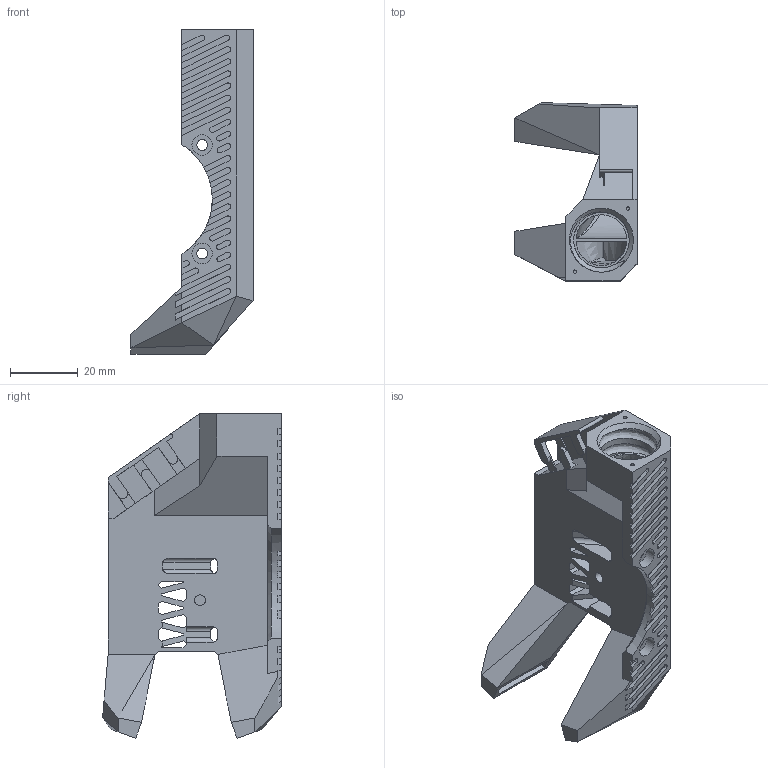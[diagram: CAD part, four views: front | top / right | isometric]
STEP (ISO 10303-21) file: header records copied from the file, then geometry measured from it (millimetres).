
FILE_DESCRIPTION(/* description */ ('CAx-IF Rec.Pracs.---Representation and Presentation of Product Manufacturing Information (PMI)---4.0---2014-10-13','CAx-IF Rec.Pracs.---3D Tessellated Geometry---0.4---2014-09-14','2;1'),/* implementation_level */ '2;1');
FILE_NAME(/* name */ 'B1V7040R',/* time_stamp */ '2025-06-16T17:35:26+03:00',/* author */ (''),/* organization */ (''),/* preprocessor_version */ 'ST-DEVELOPER v20',/* originating_system */ 'SIEMENS PLM Software NX2406.6001',/* authorisation */ $);
FILE_SCHEMA (('AP242_MANAGED_MODEL_BASED_3D_ENGINEERING_MIM_LF { 1 0 10303 442 3 1 4 }'));
Length unit declared in the file: millimetre
Products named in the file (1): B1V7040R
Bounding box: 36 x 52.7 x 95.72 mm (x, y, z)
Volume: 31161.4 mm3; surface area: 25134 mm2
Topology: 1 solids, 2 shells, 579 faces, 1588 edges, 1041 vertices
Faces by surface type: plane 429, cylinder 93, bspline 53, cone 4
Full cylindrical faces by diameter (mm): 1 x2, 3.2 x3, 6 x3
Entity records: 21691 total; most frequent: CARTESIAN_POINT 7667, ORIENTED_EDGE 3146, DIRECTION 2496, EDGE_CURVE 1573, VERTEX_POINT 1038, LINE 1022, VECTOR 1022, AXIS2_PLACEMENT_3D 737
